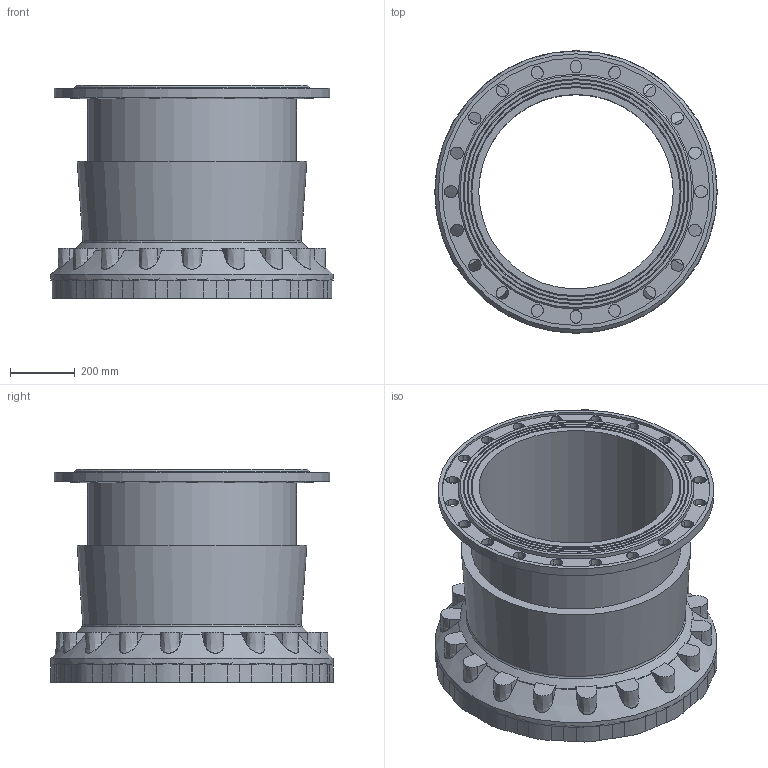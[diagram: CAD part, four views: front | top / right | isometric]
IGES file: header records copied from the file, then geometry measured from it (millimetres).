
Start section: SolidWorks IGES file using analytic representation for surfaces
Global section: file name: \\avksan2\techshare\PBM outline export from Enovia\O_633_00_DN600_AA0.igs; native system: SolidWorks 2012; preprocessor: SolidWorks 2012; author: pbm; date: 180703.080755; units: millimetre
Bounding box: 870 x 870.98 x 656.85 mm (x, y, z)
Surface area: 3854743.4 mm2 (no closed solid volume)
Topology: 0 solids, 0 shells, 400 faces, 2324 edges, 2297 vertices
Faces by surface type: revolution 302, bspline 98
